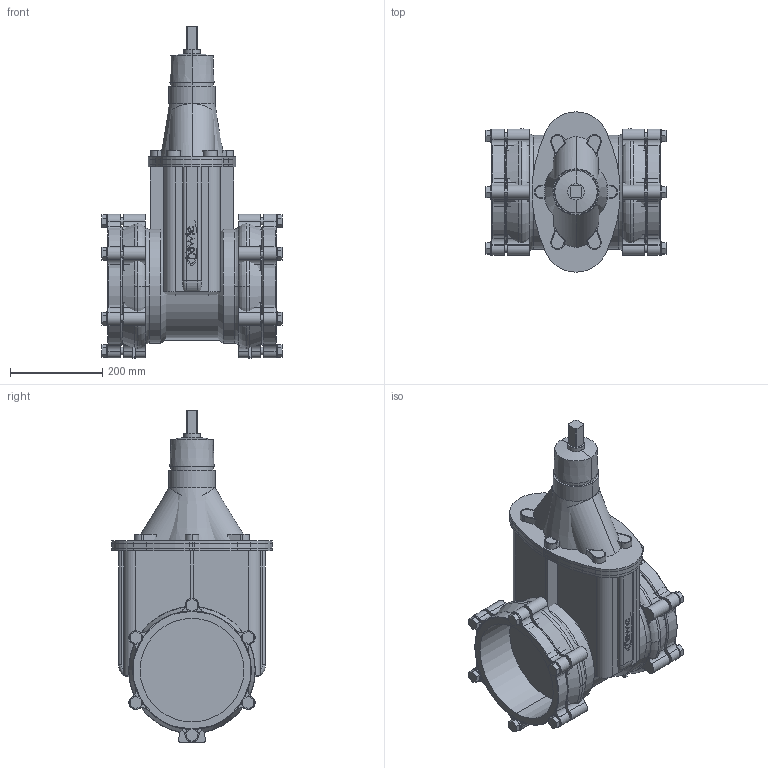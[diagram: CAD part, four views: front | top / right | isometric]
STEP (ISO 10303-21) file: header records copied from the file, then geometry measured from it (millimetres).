
FILE_DESCRIPTION(('STEP AP214'),'1');
FILE_NAME('S:/EK/USER/CAT6/3DHomepage/4040E2/4040E2-PN16-DN200-225.STP','2012-04-24T11:24:48',(' '),(' '),'Spatial InterOp 3D',' ',' ');
FILE_SCHEMA(('automotive_design'));
Length unit declared in the file: millimetre
Products named in the file (113): 3D-Objekt
Bounding box: 391 x 348.01 x 721 mm (x, y, z)
Volume: 26512043.1 mm3; surface area: 2005096 mm2
Topology: 113 solids, 113 shells, 938 faces, 2116 edges, 1408 vertices
Faces by surface type: plane 550, cylinder 342, torus 28, cone 14, bspline 4
Entity records: 36565 total; most frequent: DIRECTION 5006, CARTESIAN_POINT 4643, ORIENTED_EDGE 4232, EDGE_CURVE 2116, AXIS2_PLACEMENT_3D 1843, VERTEX_POINT 1408, LINE 1320, VECTOR 1320
